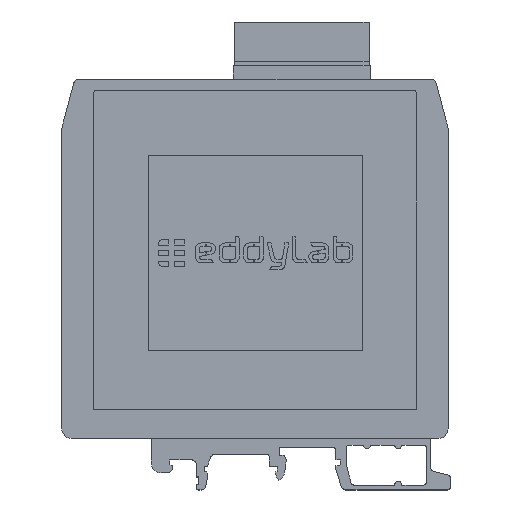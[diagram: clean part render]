
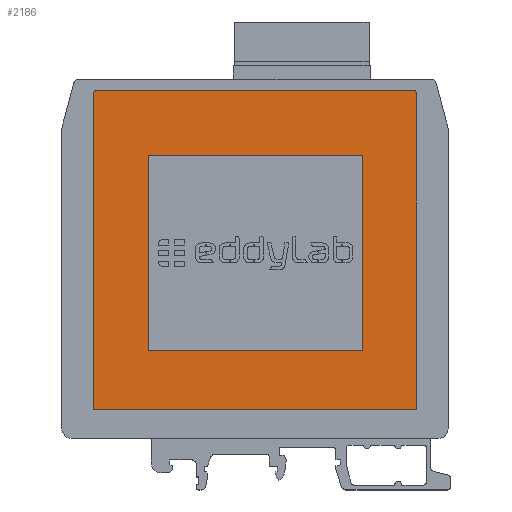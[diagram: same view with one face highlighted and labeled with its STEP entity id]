
A CAD part, top view. The second image highlights one B-rep face of the part: STEP entity #2186.
In plain terms, the highlighted planar face has unit normal (0, 0, 1).
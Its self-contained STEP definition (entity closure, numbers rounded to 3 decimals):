
#2186 = ADVANCED_FACE( '', ( #5249, #5250 ), #5251, .F. );
#5249 = FACE_BOUND( '', #9258, .T. );
#5250 = FACE_OUTER_BOUND( '', #9259, .T. );
#5251 = PLANE( '', #9260 );
#9258 = EDGE_LOOP( '', ( #16439, #16440, #16441, #16442 ) );
#9259 = EDGE_LOOP( '', ( #16443, #16444, #16445, #16446, #16447, #16448 ) );
#9260 = AXIS2_PLACEMENT_3D( '', #16449, #16450, #16451 );
#16439 = ORIENTED_EDGE( '', *, *, #26383, .F. );
#16440 = ORIENTED_EDGE( '', *, *, #26544, .T. );
#16441 = ORIENTED_EDGE( '', *, *, #26545, .F. );
#16442 = ORIENTED_EDGE( '', *, *, #26546, .F. );
#16443 = ORIENTED_EDGE( '', *, *, #26547, .F. );
#16444 = ORIENTED_EDGE( '', *, *, #26548, .T. );
#16445 = ORIENTED_EDGE( '', *, *, #26549, .T. );
#16446 = ORIENTED_EDGE( '', *, *, #26550, .F. );
#16447 = ORIENTED_EDGE( '', *, *, #26551, .T. );
#16448 = ORIENTED_EDGE( '', *, *, #25046, .F. );
#16449 = CARTESIAN_POINT( '', ( 178.3, 0., 24.8 ) );
#16450 = DIRECTION( '', ( 0., 0., -1. ) );
#16451 = DIRECTION( '', ( 0., -1., 0. ) );
#25046 = EDGE_CURVE( '', #30353, #30355, #30356, .T. );
#26383 = EDGE_CURVE( '', #32545, #32547, #32548, .T. );
#26544 = EDGE_CURVE( '', #32545, #32781, #32782, .T. );
#26545 = EDGE_CURVE( '', #32783, #32781, #32784, .T. );
#26546 = EDGE_CURVE( '', #32547, #32783, #32785, .T. );
#26547 = EDGE_CURVE( '', #32786, #30353, #32787, .T. );
#26548 = EDGE_CURVE( '', #32786, #32788, #32789, .T. );
#26549 = EDGE_CURVE( '', #32788, #32790, #32791, .T. );
#26550 = EDGE_CURVE( '', #32792, #32790, #32793, .T. );
#26551 = EDGE_CURVE( '', #32792, #30355, #32794, .T. );
#30353 = VERTEX_POINT( '', #37994 );
#30355 = VERTEX_POINT( '', #37997 );
#30356 = LINE( '', #37998, #37999 );
#32545 = VERTEX_POINT( '', #41531 );
#32547 = VERTEX_POINT( '', #41534 );
#32548 = LINE( '', #41535, #41536 );
#32781 = VERTEX_POINT( '', #41904 );
#32782 = LINE( '', #41905, #41906 );
#32783 = VERTEX_POINT( '', #41907 );
#32784 = LINE( '', #41908, #41909 );
#32785 = LINE( '', #41910, #41911 );
#32786 = VERTEX_POINT( '', #41912 );
#32787 = LINE( '', #41913, #41914 );
#32788 = VERTEX_POINT( '', #41915 );
#32789 = LINE( '', #41916, #41917 );
#32790 = VERTEX_POINT( '', #41918 );
#32791 = LINE( '', #41919, #41920 );
#32792 = VERTEX_POINT( '', #41921 );
#32793 = LINE( '', #41922, #41923 );
#32794 = LINE( '', #41924, #41925 );
#37994 = CARTESIAN_POINT( '', ( 56.05, 5.9, 24.8 ) );
#37997 = CARTESIAN_POINT( '', ( 56.05, 70.634, 24.8 ) );
#37998 = CARTESIAN_POINT( '', ( 56.05, -61.55, 24.8 ) );
#37999 = VECTOR( '', #47161, 1000. );
#41531 = CARTESIAN_POINT( '', ( 67.25, 18., 24.8 ) );
#41534 = CARTESIAN_POINT( '', ( 111.25, 18., 24.8 ) );
#41535 = CARTESIAN_POINT( '', ( 178.3, 18., 24.8 ) );
#41536 = VECTOR( '', #48632, 1000. );
#41904 = CARTESIAN_POINT( '', ( 67.25, 58., 24.8 ) );
#41905 = CARTESIAN_POINT( '', ( 67.25, 0., 24.8 ) );
#41906 = VECTOR( '', #48799, 1000. );
#41907 = CARTESIAN_POINT( '', ( 111.25, 58., 24.8 ) );
#41908 = CARTESIAN_POINT( '', ( 178.3, 58., 24.8 ) );
#41909 = VECTOR( '', #48800, 1000. );
#41910 = CARTESIAN_POINT( '', ( 111.25, 0., 24.8 ) );
#41911 = VECTOR( '', #48801, 1000. );
#41912 = CARTESIAN_POINT( '', ( 122.25, 5.9, 24.8 ) );
#41913 = CARTESIAN_POINT( '', ( 515.6, 5.9, 24.8 ) );
#41914 = VECTOR( '', #48802, 1000. );
#41915 = CARTESIAN_POINT( '', ( 122.25, 70.634, 24.8 ) );
#41916 = CARTESIAN_POINT( '', ( 122.25, -61.55, 24.8 ) );
#41917 = VECTOR( '', #48803, 1000. );
#41918 = CARTESIAN_POINT( '', ( 122.072, 71.3, 24.8 ) );
#41919 = CARTESIAN_POINT( '', ( 157.669, -61.55, 24.8 ) );
#41920 = VECTOR( '', #48804, 1000. );
#41921 = CARTESIAN_POINT( '', ( 56.228, 71.3, 24.8 ) );
#41922 = CARTESIAN_POINT( '', ( 515.6, 71.3, 24.8 ) );
#41923 = VECTOR( '', #48805, 1000. );
#41924 = CARTESIAN_POINT( '', ( 20.631, -61.55, 24.8 ) );
#41925 = VECTOR( '', #48806, 1000. );
#47161 = DIRECTION( '', ( 0., 1., 0. ) );
#48632 = DIRECTION( '', ( 1., 0., 0. ) );
#48799 = DIRECTION( '', ( 0., 1., 0. ) );
#48800 = DIRECTION( '', ( -1., 0., 0. ) );
#48801 = DIRECTION( '', ( 0., 1., 0. ) );
#48802 = DIRECTION( '', ( -1., 0., 0. ) );
#48803 = DIRECTION( '', ( 0., 1., 0. ) );
#48804 = DIRECTION( '', ( -0.259, 0.966, 0. ) );
#48805 = DIRECTION( '', ( 1., 0., 0. ) );
#48806 = DIRECTION( '', ( -0.259, -0.966, 0. ) );
